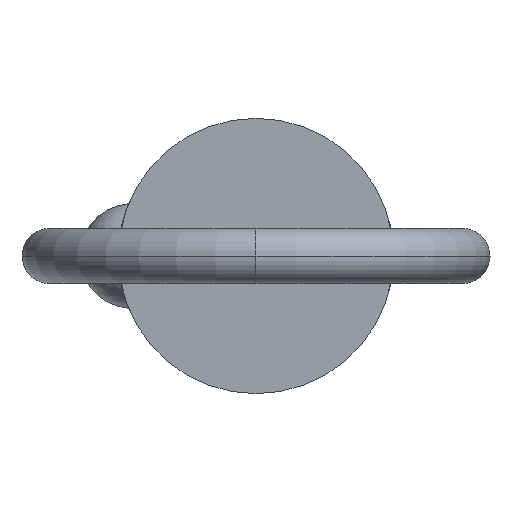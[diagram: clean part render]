
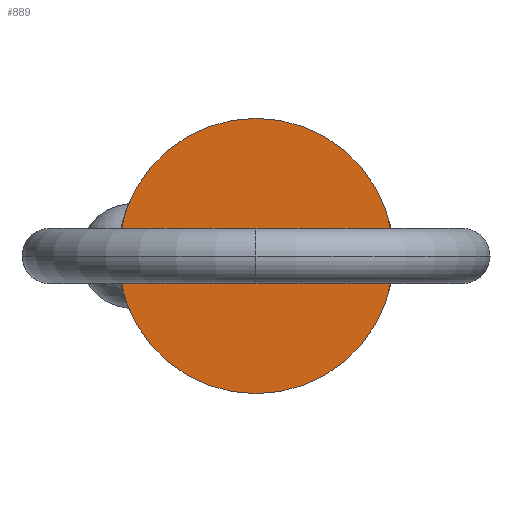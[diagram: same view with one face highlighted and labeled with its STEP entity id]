
A CAD part, left-side view. The second image highlights one B-rep face of the part: STEP entity #889.
In plain terms, the highlighted planar face has unit normal (-1, 0, 0).
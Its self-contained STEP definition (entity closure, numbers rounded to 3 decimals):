
#3 = ORIENTED_EDGE ( 'NONE', *, *, #6, .F. ) ;
#6 = EDGE_CURVE ( 'NONE', #979, #861, #32, .T. ) ;
#32 = CIRCLE ( 'NONE', #644, 12.7 ) ;
#39 = DIRECTION ( 'NONE',  ( -1., 0., 0. ) ) ;
#51 = EDGE_LOOP ( 'NONE', ( #3, #220 ) ) ;
#109 = DIRECTION ( 'NONE',  ( 1., 0., 0. ) ) ;
#183 = FACE_OUTER_BOUND ( 'NONE', #51, .T. ) ;
#200 = CARTESIAN_POINT ( 'NONE',  ( 0., 0., 0. ) ) ;
#220 = ORIENTED_EDGE ( 'NONE', *, *, #305, .F. ) ;
#245 = DIRECTION ( 'NONE',  ( 1., 0., 0. ) ) ;
#305 = EDGE_CURVE ( 'NONE', #861, #979, #810, .T. ) ;
#329 = DIRECTION ( 'NONE',  ( 0., 0., 1. ) ) ;
#333 = DIRECTION ( 'NONE',  ( 0., 0., -1. ) ) ;
#374 = AXIS2_PLACEMENT_3D ( 'NONE', #200, #109, #333 ) ;
#431 = CARTESIAN_POINT ( 'NONE',  ( 0., 0., -12.7 ) ) ;
#491 = PLANE ( 'NONE',  #609 ) ;
#560 = CARTESIAN_POINT ( 'NONE',  ( 0., 0., 12.7 ) ) ;
#609 = AXIS2_PLACEMENT_3D ( 'NONE', #759, #39, #329 ) ;
#644 = AXIS2_PLACEMENT_3D ( 'NONE', #850, #245, #847 ) ;
#759 = CARTESIAN_POINT ( 'NONE',  ( 0., 0., 0. ) ) ;
#810 = CIRCLE ( 'NONE', #374, 12.7 ) ;
#847 = DIRECTION ( 'NONE',  ( 0., 0., -1. ) ) ;
#850 = CARTESIAN_POINT ( 'NONE',  ( 0., 0., 0. ) ) ;
#861 = VERTEX_POINT ( 'NONE', #560 ) ;
#889 = ADVANCED_FACE ( 'NONE', ( #183 ), #491, .T. ) ;
#979 = VERTEX_POINT ( 'NONE', #431 ) ;
